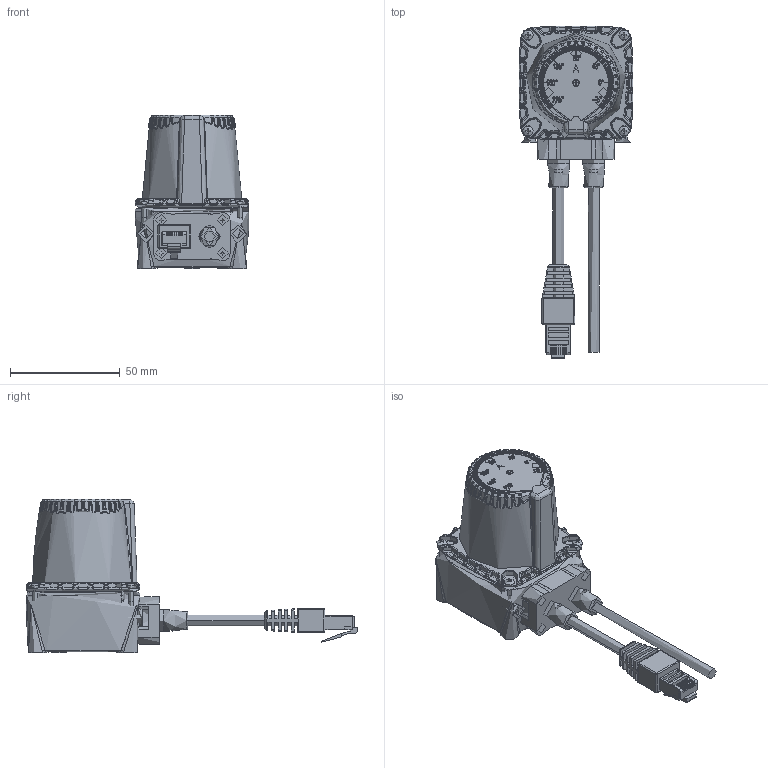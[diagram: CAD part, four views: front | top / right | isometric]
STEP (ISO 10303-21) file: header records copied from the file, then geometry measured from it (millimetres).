
FILE_DESCRIPTION(/* description */ (''),/* implementation_level */ '2;1');
FILE_NAME(/* name */ 'YB27-25CD.stp',/* time_stamp */ '2024-06-13T10:06:31+08:00',/* author */ (''),/* organization */ (''),/* preprocessor_version */ 'ST-DEVELOPER v14',/* originating_system */ 'SIEMENS PLM Software NX 8.0',/* authorisation */ '');
FILE_SCHEMA (('AUTOMOTIVE_DESIGN { 1 0 10303 214 3 1 1 1 }'));
Products named in the file (1): YB27-25CD
Bounding box: 52.04 x 151.55 x 70.1 mm (x, y, z)
Volume: 47389.9 mm3; surface area: 46562.3 mm2
Topology: 11 solids, 13 shells, 5472 faces, 14185 edges, 9076 vertices
Faces by surface type: plane 3219, bspline 1361, cylinder 502, cone 183, torus 112, sphere 68, extrusion 27
Full cylindrical faces by diameter (mm): 1.35 x6, 1.7 x2, 1.8 x6, 2 x4, 2.06 x1, 2.38 x4, 2.5 x4, 3 x1, 3.1 x3, 3.2 x1, 3.4 x2, 3.5 x2, 4.2 x4, 4.5 x4, 4.8 x6, 5 x5, 5.1 x4, 7.9 x2, 8 x1, 10 x2
Entity records: 276850 total; most frequent: CARTESIAN_POINT 151819, ORIENTED_EDGE 27880, DIRECTION 18684, EDGE_CURVE 13940, VERTEX_POINT 9029, VECTOR 6280, LINE 6253, AXIS2_PLACEMENT_3D 6202
